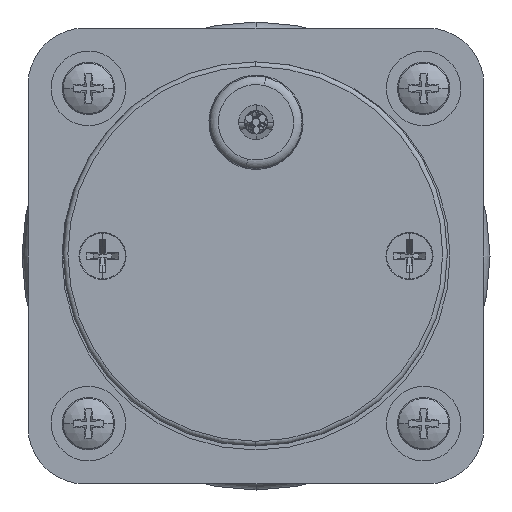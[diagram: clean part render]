
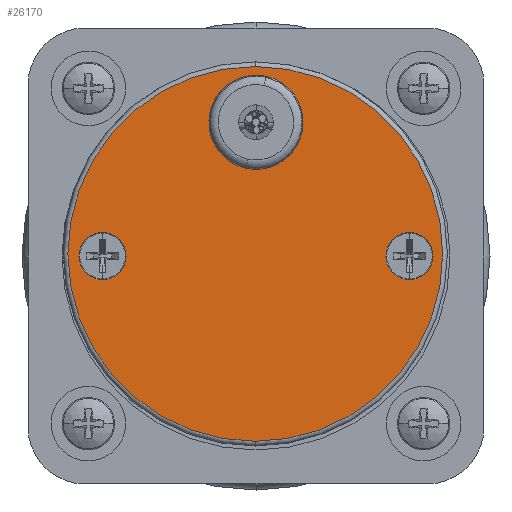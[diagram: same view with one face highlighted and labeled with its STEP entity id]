
A CAD part, front view. The second image highlights one B-rep face of the part: STEP entity #26170.
In plain terms, the highlighted planar face has unit normal (0, -1, 0).
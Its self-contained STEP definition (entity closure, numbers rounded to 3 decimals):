
#14398 = CARTESIAN_POINT ( 'NONE',  ( 16.3, -12.78, -2.501 ) ) ;
#14407 = CARTESIAN_POINT ( 'NONE',  ( 0., -12.78, 19.084 ) ) ;
#14408 = DIRECTION ( 'NONE',  ( 0., 0., 1. ) ) ;
#14409 = DIRECTION ( 'NONE',  ( 0., -1., 0. ) ) ;
#14410 = CARTESIAN_POINT ( 'NONE',  ( 0., -12.78, 14.199 ) ) ;
#14411 = AXIS2_PLACEMENT_3D ( 'NONE', #14410, #14409, #14408 ) ;
#14412 = CIRCLE ( 'NONE', #14411, 4.885 ) ;
#14413 = CARTESIAN_POINT ( 'NONE',  ( 16.3, -12.78, 2.499 ) ) ;
#14414 = DIRECTION ( 'NONE',  ( 0., 0., 1. ) ) ;
#14415 = DIRECTION ( 'NONE',  ( 0., -1., 0. ) ) ;
#14416 = CARTESIAN_POINT ( 'NONE',  ( 0., -12.78, 14.199 ) ) ;
#14417 = AXIS2_PLACEMENT_3D ( 'NONE', #14416, #14415, #14414 ) ;
#14418 = CIRCLE ( 'NONE', #14417, 4.885 ) ;
#14419 = CARTESIAN_POINT ( 'NONE',  ( 0., -12.78, 9.314 ) ) ;
#14420 = DIRECTION ( 'NONE',  ( 0., 0., -1. ) ) ;
#14421 = DIRECTION ( 'NONE',  ( 0., -1., 0. ) ) ;
#14422 = CARTESIAN_POINT ( 'NONE',  ( -0.074, -12.78, 0.218 ) ) ;
#14423 = AXIS2_PLACEMENT_3D ( 'NONE', #14422, #14421, #14420 ) ;
#14424 = CIRCLE ( 'NONE', #14423, 19.9 ) ;
#14435 = DIRECTION ( 'NONE',  ( 0., 0., -1. ) ) ;
#14436 = DIRECTION ( 'NONE',  ( 0., 1., 0. ) ) ;
#14438 = CARTESIAN_POINT ( 'NONE',  ( -0.074, -12.78, 0.218 ) ) ;
#14439 = AXIS2_PLACEMENT_3D ( 'NONE', #14438, #14436, #14435 ) ;
#14440 = PLANE ( 'NONE',  #14439 ) ;
#14441 = FACE_OUTER_BOUND ( 'NONE', #26131, .T. ) ;
#14442 = FACE_BOUND ( 'NONE', #26265, .T. ) ;
#14443 = FACE_BOUND ( 'NONE', #26164, .T. ) ;
#14444 = FACE_BOUND ( 'NONE', #26166, .T. ) ;
#14445 = DIRECTION ( 'NONE',  ( 0., 0., -1. ) ) ;
#14446 = DIRECTION ( 'NONE',  ( 0., 1., 0. ) ) ;
#14447 = CARTESIAN_POINT ( 'NONE',  ( -16.3, -12.78, -0.001 ) ) ;
#14448 = AXIS2_PLACEMENT_3D ( 'NONE', #14447, #14446, #14445 ) ;
#14449 = CIRCLE ( 'NONE', #14448, 2.5 ) ;
#14472 = CARTESIAN_POINT ( 'NONE',  ( -16.3, -12.78, -0.001 ) ) ;
#14478 = CARTESIAN_POINT ( 'NONE',  ( -16.3, -12.78, 2.499 ) ) ;
#14509 = DIRECTION ( 'NONE',  ( 0., 0., -1. ) ) ;
#14510 = DIRECTION ( 'NONE',  ( 0., 1., 0. ) ) ;
#14511 = CARTESIAN_POINT ( 'NONE',  ( 16.3, -12.78, -0.001 ) ) ;
#14512 = AXIS2_PLACEMENT_3D ( 'NONE', #14511, #14510, #14509 ) ;
#14513 = CIRCLE ( 'NONE', #14512, 2.5 ) ;
#14531 = DIRECTION ( 'NONE',  ( 0., 0., -1. ) ) ;
#14532 = DIRECTION ( 'NONE',  ( 0., 1., 0. ) ) ;
#14533 = AXIS2_PLACEMENT_3D ( 'NONE', #14472, #14532, #14531 ) ;
#14534 = CIRCLE ( 'NONE', #14533, 2.5 ) ;
#14678 = CARTESIAN_POINT ( 'NONE',  ( -0.074, -12.78, -19.682 ) ) ;
#14679 = DIRECTION ( 'NONE',  ( 0., 0., -1. ) ) ;
#14681 = DIRECTION ( 'NONE',  ( 0., -1., 0. ) ) ;
#14682 = AXIS2_PLACEMENT_3D ( 'NONE', #14690, #14681, #14679 ) ;
#14683 = CIRCLE ( 'NONE', #14682, 19.9 ) ;
#14690 = CARTESIAN_POINT ( 'NONE',  ( -0.074, -12.78, 0.218 ) ) ;
#14714 = DIRECTION ( 'NONE',  ( 0., 0., -1. ) ) ;
#14716 = DIRECTION ( 'NONE',  ( 0., 1., 0. ) ) ;
#14718 = CARTESIAN_POINT ( 'NONE',  ( 16.3, -12.78, -0.001 ) ) ;
#14720 = AXIS2_PLACEMENT_3D ( 'NONE', #14718, #14716, #14714 ) ;
#14722 = CIRCLE ( 'NONE', #14720, 2.5 ) ;
#14773 = CARTESIAN_POINT ( 'NONE',  ( -16.3, -12.78, -2.501 ) ) ;
#14945 = CARTESIAN_POINT ( 'NONE',  ( -0.074, -12.78, 20.118 ) ) ;
#26129 = ORIENTED_EDGE ( 'NONE', *, *, #26269, .T. ) ;
#26131 = EDGE_LOOP ( 'NONE', ( #26132, #26129 ) ) ;
#26132 = ORIENTED_EDGE ( 'NONE', *, *, #26133, .T. ) ;
#26133 = EDGE_CURVE ( 'NONE', #26270, #26345, #14424, .T. ) ;
#26134 = VERTEX_POINT ( 'NONE', #14419 ) ;
#26135 = ORIENTED_EDGE ( 'NONE', *, *, #26136, .F. ) ;
#26136 = EDGE_CURVE ( 'NONE', #26134, #26139, #14418, .T. ) ;
#26137 = VERTEX_POINT ( 'NONE', #14413 ) ;
#26138 = EDGE_CURVE ( 'NONE', #26139, #26134, #14412, .T. ) ;
#26139 = VERTEX_POINT ( 'NONE', #14407 ) ;
#26143 = VERTEX_POINT ( 'NONE', #14398 ) ;
#26160 = ORIENTED_EDGE ( 'NONE', *, *, #26204, .T. ) ;
#26163 = ORIENTED_EDGE ( 'NONE', *, *, #26169, .T. ) ;
#26164 = EDGE_LOOP ( 'NONE', ( #26165, #26160 ) ) ;
#26165 = ORIENTED_EDGE ( 'NONE', *, *, #26260, .T. ) ;
#26166 = EDGE_LOOP ( 'NONE', ( #26167, #26163 ) ) ;
#26167 = ORIENTED_EDGE ( 'NONE', *, *, #26197, .T. ) ;
#26169 = EDGE_CURVE ( 'NONE', #26275, #26192, #14449, .T. ) ;
#26170 = ADVANCED_FACE ( 'NONE', ( #14444, #14443, #14442, #14441 ), #14440, .F. ) ;
#26192 = VERTEX_POINT ( 'NONE', #14478 ) ;
#26197 = EDGE_CURVE ( 'NONE', #26192, #26275, #14534, .T. ) ;
#26204 = EDGE_CURVE ( 'NONE', #26143, #26137, #14513, .T. ) ;
#26260 = EDGE_CURVE ( 'NONE', #26137, #26143, #14722, .T. ) ;
#26265 = EDGE_LOOP ( 'NONE', ( #26266, #26135 ) ) ;
#26266 = ORIENTED_EDGE ( 'NONE', *, *, #26138, .F. ) ;
#26269 = EDGE_CURVE ( 'NONE', #26345, #26270, #14683, .T. ) ;
#26270 = VERTEX_POINT ( 'NONE', #14678 ) ;
#26275 = VERTEX_POINT ( 'NONE', #14773 ) ;
#26345 = VERTEX_POINT ( 'NONE', #14945 ) ;
